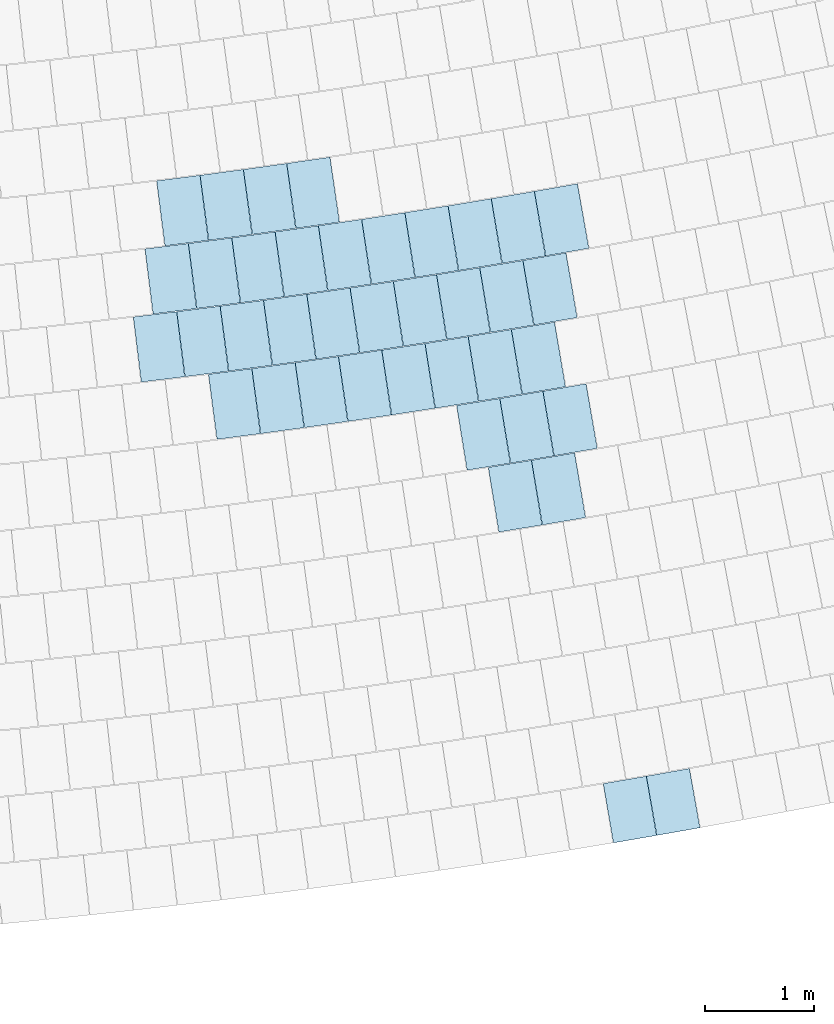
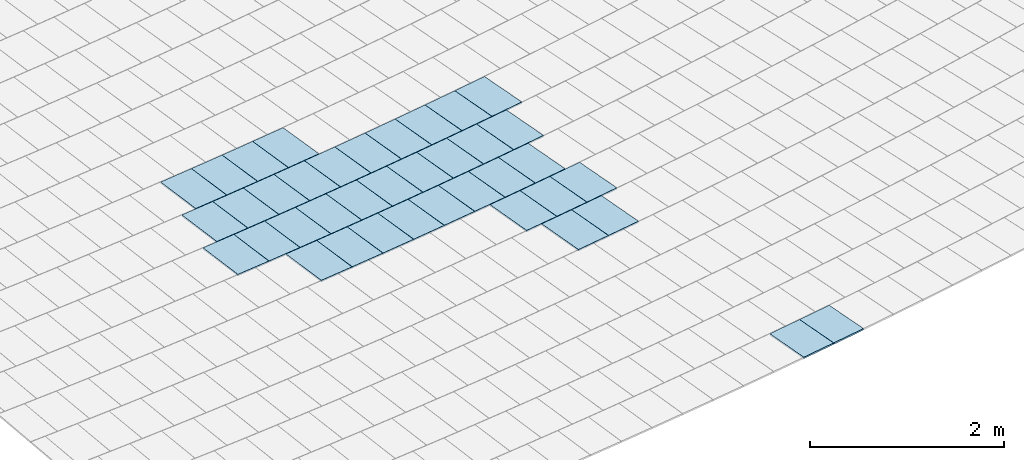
# One storey, part 27 of 438: 39 slabs.
"""IFC2X3 building model written with IfcOpenShell, lengths in millimetres."""

from ifc_helpers import new_model, entity, si_unit, converted_unit, derived_unit, direction, frame, origin, place, context, subcontext, project, spatial, polyline, outline, extrude, material, layer, layer_set, layer_usage, type_object, element, save


model = new_model("IFC2X3")

# Units and contexts
model_context = context("Model", 3, precision=0.01, world=origin(), true_north=direction((6.123031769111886e-17, 1.0)))
body_context = subcontext(model_context, "Body", "Model", "MODEL_VIEW")
ifc_project = project(units=[si_unit("LENGTHUNIT", "METRE", prefix="MILLI"), si_unit("AREAUNIT", "SQUARE_METRE"), si_unit("VOLUMEUNIT", "CUBIC_METRE"), converted_unit("PLANEANGLEUNIT", "DEGREE", entity("IfcRatioMeasure", 0.017453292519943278), si_unit("PLANEANGLEUNIT", "RADIAN"), dimensions=[0, 0, 0, 0, 0, 0, 0]), si_unit("MASSUNIT", "GRAM", prefix="KILO"), derived_unit("MASSDENSITYUNIT", [(si_unit("MASSUNIT", "GRAM", prefix="KILO"), 1), (si_unit("LENGTHUNIT", "METRE"), -3)]), derived_unit("MOMENTOFINERTIAUNIT", [(si_unit("LENGTHUNIT", "METRE"), 4)]), si_unit("TIMEUNIT", "SECOND"), si_unit("FREQUENCYUNIT", "HERTZ"), si_unit("THERMODYNAMICTEMPERATUREUNIT", "DEGREE_CELSIUS"), derived_unit("THERMALTRANSMITTANCEUNIT", [(si_unit("MASSUNIT", "GRAM", prefix="KILO"), 1), (si_unit("THERMODYNAMICTEMPERATUREUNIT", "KELVIN"), -1), (si_unit("TIMEUNIT", "SECOND"), -3)]), derived_unit("THERMALCONDUCTANCEUNIT", [(si_unit("MASSUNIT", "GRAM", prefix="KILO"), 1), (si_unit("LENGTHUNIT", "METRE"), 1), (si_unit("THERMODYNAMICTEMPERATUREUNIT", "KELVIN"), -1), (si_unit("TIMEUNIT", "SECOND"), -3)]), derived_unit("VOLUMETRICFLOWRATEUNIT", [(si_unit("LENGTHUNIT", "METRE"), 3), (si_unit("TIMEUNIT", "SECOND"), -1)]), derived_unit("MASSFLOWRATEUNIT", [(si_unit("MASSUNIT", "GRAM", prefix="KILO"), 1), (si_unit("TIMEUNIT", "SECOND"), -1)]), derived_unit("ROTATIONALFREQUENCYUNIT", [(si_unit("TIMEUNIT", "SECOND"), -1)]), si_unit("ELECTRICCURRENTUNIT", "AMPERE"), si_unit("ELECTRICVOLTAGEUNIT", "VOLT"), si_unit("POWERUNIT", "WATT"), converted_unit("FORCEUNIT", "KIP", entity("IfcRatioMeasure", 2.088543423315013e-05), si_unit("FORCEUNIT", "NEWTON"), dimensions=[1, 1, -2, 0, 0, 0, 0]), si_unit("ILLUMINANCEUNIT", "LUX"), si_unit("LUMINOUSFLUXUNIT", "LUMEN"), si_unit("LUMINOUSINTENSITYUNIT", "CANDELA"), derived_unit("USERDEFINED", [(si_unit("MASSUNIT", "GRAM", prefix="KILO"), -1), (si_unit("LENGTHUNIT", "METRE"), -2), (si_unit("TIMEUNIT", "SECOND"), 3), (si_unit("LUMINOUSFLUXUNIT", "LUMEN"), 1)]), derived_unit("USERDEFINED", [(si_unit("MASSUNIT", "GRAM", prefix="KILO"), 1), (si_unit("LENGTHUNIT", "METRE"), 3), (si_unit("TIMEUNIT", "SECOND"), -3), (si_unit("ELECTRICCURRENTUNIT", "AMPERE"), -2)]), derived_unit("USERDEFINED", [(si_unit("LENGTHUNIT", "METRE"), 2), (si_unit("TIMEUNIT", "SECOND"), -2)]), derived_unit("SOUNDPOWERUNIT", [(si_unit("MASSUNIT", "GRAM", prefix="KILO"), 1), (si_unit("LENGTHUNIT", "METRE"), 2), (si_unit("TIMEUNIT", "SECOND"), -3)]), derived_unit("SOUNDPRESSUREUNIT", [(si_unit("MASSUNIT", "GRAM", prefix="KILO"), 1), (si_unit("LENGTHUNIT", "METRE"), -1), (si_unit("TIMEUNIT", "SECOND"), -2)]), derived_unit("LINEARVELOCITYUNIT", [(si_unit("LENGTHUNIT", "METRE"), 1), (si_unit("TIMEUNIT", "SECOND"), -1)]), si_unit("PRESSUREUNIT", "PASCAL"), derived_unit("USERDEFINED", [(si_unit("LENGTHUNIT", "METRE"), -2), (si_unit("MASSUNIT", "GRAM", prefix="KILO"), 1), (si_unit("TIMEUNIT", "SECOND"), -2)]), derived_unit("LINEARFORCEUNIT", [(si_unit("MASSUNIT", "GRAM", prefix="KILO"), 1), (si_unit("LENGTHUNIT", "METRE"), 1), (si_unit("TIMEUNIT", "SECOND"), -2), (si_unit("LENGTHUNIT", "METRE"), -1)]), derived_unit("PLANARFORCEUNIT", [(si_unit("MASSUNIT", "GRAM", prefix="KILO"), 1), (si_unit("LENGTHUNIT", "METRE"), 1), (si_unit("TIMEUNIT", "SECOND"), -2), (si_unit("LENGTHUNIT", "METRE"), -2)]), derived_unit("SPECIFICHEATCAPACITYUNIT", [(si_unit("LENGTHUNIT", "METRE"), 2), (si_unit("TIMEUNIT", "SECOND"), -2), (si_unit("THERMODYNAMICTEMPERATUREUNIT", "KELVIN"), -1)]), derived_unit("VAPORPERMEABILITYUNIT", [(si_unit("TIMEUNIT", "SECOND"), 1), (si_unit("LENGTHUNIT", "METRE"), -1)]), derived_unit("DYNAMICVISCOSITYUNIT", [(si_unit("MASSUNIT", "GRAM", prefix="KILO"), 1), (si_unit("LENGTHUNIT", "METRE"), -1), (si_unit("TIMEUNIT", "SECOND"), -1)]), derived_unit("THERMALEXPANSIONCOEFFICIENTUNIT", [(si_unit("THERMODYNAMICTEMPERATUREUNIT", "KELVIN"), -1)])], contexts=[model_context])

# Site, building, storey
site_placement = place(None, frame((0.0, 0.0, 0.0), z_axis=(0.0, 0.0, 1.0), x_axis=(0.8191520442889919, 0.5735764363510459, 0.0)))
site = spatial("IfcSite", under=ifc_project, at=site_placement, Name="Default", CompositionType="ELEMENT")
building_placement = place(site_placement, origin())
building = spatial("IfcBuilding", under=site, at=building_placement, CompositionType="ELEMENT")
storey_placement = place(building_placement, origin())
storey = spatial("IfcBuildingStorey", under=building, at=storey_placement, Name="PLAN", CompositionType="ELEMENT", Elevation=0.0)

# Slabs
ifc_material = material(Name="Paint-01")
ifc_layer = layer(ifc_material, 20.00000000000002)
ifc_layer_set = layer_set([ifc_layer], Name="Floor:Slab-179:1000")
ifc_layer_usage = layer_usage(ifc_layer_set, "AXIS3", "POSITIVE", 0.0)
slab_type = type_object("IfcSlabType", Name="Floor:Slab-179:1000", PredefinedType="FLOOR", material=ifc_layer_set)
slab_1_placement = place(storey_placement, origin())
element("IfcSlab", 1, at=slab_1_placement, inside=storey, type_object=slab_type, material=ifc_layer_usage, Name="Floor:Slab-179:1000", ObjectType="Floor:Slab-179:1000", PredefinedType="FLOOR", context=body_context, shape_type="SweptSolid", body=[
    extrude(outline(polyline([(-274.9999989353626, -200.0000029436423), (275.00000106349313, -200.00000294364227), (274.9999989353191, 200.0000029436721), (-275.00000106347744, 200.00000294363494), (-274.9999989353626, -200.0000029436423)])), frame((-73088.72554432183, -138428.2640546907, 20.0), z_axis=(0.0, 0.0, -1.0), x_axis=(-0.4215710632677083, -0.9067953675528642, 0.0)), (0.0, 0.0, 1.0), 20.00000000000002),
])
slab_2_placement = place(storey_placement, origin())
element("IfcSlab", 2, at=slab_2_placement, inside=storey, type_object=slab_type, material=ifc_layer_usage, Name="Floor:Slab-179:1000", ObjectType="Floor:Slab-179:1000", PredefinedType="FLOOR", context=body_context, shape_type="SweptSolid", body=[
    extrude(outline(polyline([(-274.99999893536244, -200.00000294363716), (275.00000106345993, -200.00000294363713), (274.99999893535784, 200.00000294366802), (-275.00000106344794, 200.0000029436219), (-274.99999893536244, -200.00000294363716)])), frame((-73452.29217038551, -138258.09803950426, 20.0), z_axis=(0.0, 0.0, -1.0), x_axis=(-0.4262486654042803, -0.904606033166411, 0.0)), (0.0, 0.0, 1.0), 20.00000000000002),
])
slab_3_placement = place(storey_placement, origin())
element("IfcSlab", 3, at=slab_3_placement, inside=storey, type_object=slab_type, material=ifc_layer_usage, Name="Floor:Slab-179:1000", ObjectType="Floor:Slab-179:1000", PredefinedType="FLOOR", context=body_context, shape_type="SweptSolid", body=[
    extrude(outline(polyline([(-299.99999893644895, -200.00000294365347), (300.00000106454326, -200.0000029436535), (299.99999893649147, 200.00000294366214), (-300.0000010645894, 200.00000294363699), (-299.99999893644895, -200.00000294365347)])), frame((-72305.47212495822, -135481.95921376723, 20.0), z_axis=(0.0, 0.0, -1.0), x_axis=(-0.42801415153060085, -0.9037720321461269, 0.0)), (0.0, 0.0, 1.0), 20.00000000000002),
])
slab_4_placement = place(storey_placement, origin())
element("IfcSlab", 4, at=slab_4_placement, inside=storey, type_object=slab_type, material=ifc_layer_usage, Name="Floor:Slab-179:1000", ObjectType="Floor:Slab-179:1000", PredefinedType="FLOOR", context=body_context, shape_type="SweptSolid", body=[
    extrude(outline(polyline([(-299.99999893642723, -200.00000294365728), (300.00000106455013, -200.00000294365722), (299.9999989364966, 200.00000294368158), (-300.0000010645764, 200.00000294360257), (-299.99999893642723, -200.00000294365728)])), frame((-72667.97360234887, -135309.08929809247, 20.0), z_axis=(0.0, 0.0, -1.0), x_axis=(-0.4328652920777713, -0.9014586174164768, 0.0)), (0.0, 0.0, 1.0), 20.000000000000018),
])
slab_5_placement = place(storey_placement, origin())
element("IfcSlab", 5, at=slab_5_placement, inside=storey, type_object=slab_type, material=ifc_layer_usage, Name="Floor:Slab-179:1000", ObjectType="Floor:Slab-179:1000", PredefinedType="FLOOR", context=body_context, shape_type="SweptSolid", body=[
    extrude(outline(polyline([(-299.9999989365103, -200.0000029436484), (300.0000010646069, -200.0000029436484), (299.9999989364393, 200.00000294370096), (-300.00000106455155, 200.00000294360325), (-299.9999989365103, -200.0000029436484)])), frame((-71856.05534541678, -135025.04922388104, 20.0), z_axis=(0.0, 0.0, -1.0), x_axis=(-0.425444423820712, -0.9049845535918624, 0.0)), (0.0, 0.0, 1.0), 20.00000000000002),
])
slab_6_placement = place(storey_placement, origin())
element("IfcSlab", 6, at=slab_6_placement, inside=storey, type_object=slab_type, material=ifc_layer_usage, Name="Floor:Slab-179:1000", ObjectType="Floor:Slab-179:1000", PredefinedType="FLOOR", context=body_context, shape_type="SweptSolid", body=[
    extrude(outline(polyline([(-299.9999989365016, -200.00000294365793), (300.00000106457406, -200.0000029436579), (299.9999989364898, 200.00000294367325), (-300.00000106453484, 200.00000294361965), (-299.9999989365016, -200.00000294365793)])), frame((-72581.11752000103, -134679.3791466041, 20.0), z_axis=(0.0, 0.0, -1.0), x_axis=(-0.43522669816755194, -0.9003208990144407, 0.0)), (0.0, 0.0, 1.0), 20.00000000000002),
])
slab_7_placement = place(storey_placement, origin())
element("IfcSlab", 7, at=slab_7_placement, inside=storey, type_object=slab_type, material=ifc_layer_usage, Name="Floor:Slab-179:1000", ObjectType="Floor:Slab-179:1000", PredefinedType="FLOOR", context=body_context, shape_type="SweptSolid", body=[
    extrude(outline(polyline([(-299.9999989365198, -200.00000294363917), (300.0000010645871, -200.00000294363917), (299.9999989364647, 200.00000294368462), (-300.00000106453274, 200.00000294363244), (-299.9999989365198, -200.00000294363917)])), frame((-72219.0546934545, -134853.1963881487, 20.0), z_axis=(0.0, 0.0, -1.0), x_axis=(-0.4303418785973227, -0.9026659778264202, 0.0)), (0.0, 0.0, 1.0), 20.000000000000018),
])
slab_8_placement = place(storey_placement, origin())
element("IfcSlab", 8, at=slab_8_placement, inside=storey, type_object=slab_type, material=ifc_layer_usage, Name="Floor:Slab-179:1000", ObjectType="Floor:Slab-179:1000", PredefinedType="FLOOR", context=body_context, shape_type="SweptSolid", body=[
    extrude(outline(polyline([(-299.99999893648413, -200.00000294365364), (300.0000010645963, -200.00000294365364), (299.9999989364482, 200.00000294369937), (-300.00000106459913, 200.00000294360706), (-299.99999893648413, -200.00000294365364)])), frame((-71769.86955929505, -134396.7772238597, 20.0), z_axis=(0.0, 0.0, -1.0), x_axis=(-0.4277733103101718, -0.903886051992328, 0.0)), (0.0, 0.0, 1.0), 20.00000000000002),
])
slab_9_placement = place(storey_placement, origin())
element("IfcSlab", 9, at=slab_9_placement, inside=storey, type_object=slab_type, material=ifc_layer_usage, Name="Floor:Slab-179:1000", ObjectType="Floor:Slab-179:1000", PredefinedType="FLOOR", context=body_context, shape_type="SweptSolid", body=[
    extrude(outline(polyline([(-299.9999989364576, -200.00000294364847), (300.0000010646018, -200.0000029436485), (299.999998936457, 200.0000029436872), (-300.0000010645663, 200.00000294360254), (-299.9999989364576, -200.00000294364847)])), frame((-72132.43342549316, -134223.97636443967, 20.0), z_axis=(0.0, 0.0, -1.0), x_axis=(-0.4327051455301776, -0.9015354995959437, 0.0)), (0.0, 0.0, 1.0), 20.00000000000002),
])
slab_10_placement = place(storey_placement, origin())
element("IfcSlab", 10, at=slab_10_placement, inside=storey, type_object=slab_type, material=ifc_layer_usage, Name="Floor:Slab-179:1000", ObjectType="Floor:Slab-179:1000", PredefinedType="FLOOR", context=body_context, shape_type="SweptSolid", body=[
    extrude(outline(polyline([(-299.99999893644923, -200.0000029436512), (300.0000010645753, -200.00000294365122), (299.99999893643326, 200.00000294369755), (-300.0000010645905, 200.00000294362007), (-299.99999893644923, -200.0000029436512)])), frame((-72494.0478142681, -134049.19728125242, 20.0), z_axis=(0.0, 0.0, -1.0), x_axis=(-0.43762406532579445, -0.899158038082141, 0.0)), (0.0, 0.0, 1.0), 20.000000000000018),
])
slab_11_placement = place(storey_placement, origin())
element("IfcSlab", 11, at=slab_11_placement, inside=storey, type_object=slab_type, material=ifc_layer_usage, Name="Floor:Slab-179:1000", ObjectType="Floor:Slab-179:1000", PredefinedType="FLOOR", context=body_context, shape_type="SweptSolid", body=[
    extrude(outline(polyline([(-300.00000106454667, -200.00000294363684), (299.9999989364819, -200.00000294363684), (300.0000010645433, 200.00000294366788), (-299.99999893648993, 200.0000029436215), (-300.00000106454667, -200.00000294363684)])), frame((-74287.50083418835, -133145.81315544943, 20.0), z_axis=(0.0, 0.0, -1.0), x_axis=(-0.4620198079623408, -0.8868696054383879, 0.0)), (0.0, 0.0, 1.0), 20.000000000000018),
])
slab_12_placement = place(storey_placement, origin())
element("IfcSlab", 12, at=slab_12_placement, inside=storey, type_object=slab_type, material=ifc_layer_usage, Name="Floor:Slab-179:1000", ObjectType="Floor:Slab-179:1000", PredefinedType="FLOOR", context=body_context, shape_type="SweptSolid", body=[
    extrude(outline(polyline([(-300.0000010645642, -200.00000294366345), (299.9999989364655, -200.00000294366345), (300.00000106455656, 200.00000294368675), (-299.9999989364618, 200.00000294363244), (-300.0000010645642, -200.00000294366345)])), frame((-73573.08632467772, -133513.04315160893, 20.0), z_axis=(0.0, 0.0, -1.0), x_axis=(-0.4523018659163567, -0.8918649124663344, 0.0)), (0.0, 0.0, 1.0), 20.000000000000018),
])
slab_13_placement = place(storey_placement, origin())
element("IfcSlab", 13, at=slab_13_placement, inside=storey, type_object=slab_type, material=ifc_layer_usage, Name="Floor:Slab-179:1000", ObjectType="Floor:Slab-179:1000", PredefinedType="FLOOR", context=body_context, shape_type="SweptSolid", body=[
    extrude(outline(polyline([(-300.0000010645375, -200.00000294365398), (299.99999893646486, -200.00000294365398), (300.00000106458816, 200.00000294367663), (-299.9999989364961, 200.00000294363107), (-300.0000010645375, -200.00000294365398)])), frame((-73930.79515698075, -133330.4039296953, 20.0), z_axis=(0.0, 0.0, -1.0), x_axis=(-0.457167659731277, -0.889380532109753, 0.0)), (0.0, 0.0, 1.0), 20.00000000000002),
])
slab_14_placement = place(storey_placement, origin())
element("IfcSlab", 14, at=slab_14_placement, inside=storey, type_object=slab_type, material=ifc_layer_usage, Name="Floor:Slab-179:1000", ObjectType="Floor:Slab-179:1000", PredefinedType="FLOOR", context=body_context, shape_type="SweptSolid", body=[
    extrude(outline(polyline([(-300.0000010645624, -200.00000294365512), (299.99999893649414, -200.0000029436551), (300.00000106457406, 200.00000294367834), (-299.9999989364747, 200.00000294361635), (-300.0000010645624, -200.00000294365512)])), frame((-73214.38501420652, -133693.7253697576, 20.0), z_axis=(0.0, 0.0, -1.0), x_axis=(-0.4474225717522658, -0.8943226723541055, 0.0)), (0.0, 0.0, 1.0), 20.00000000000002),
])
slab_15_placement = place(storey_placement, origin())
element("IfcSlab", 15, at=slab_15_placement, inside=storey, type_object=slab_type, material=ifc_layer_usage, Name="Floor:Slab-179:1000", ObjectType="Floor:Slab-179:1000", PredefinedType="FLOOR", context=body_context, shape_type="SweptSolid", body=[
    extrude(outline(polyline([(-299.9999989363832, -200.00000294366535), (300.0000010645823, -200.00000294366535), (299.9999989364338, 200.00000294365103), (-300.0000010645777, 200.00000294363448), (-299.9999989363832, -200.00000294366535)])), frame((-71320.4130719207, -133939.8178585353, 20.0), z_axis=(0.0, 0.0, -1.0), x_axis=(-0.42515839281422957, -0.9051189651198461, 0.0)), (0.0, 0.0, 1.0), 20.00000000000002),
])
slab_16_placement = place(storey_placement, origin())
element("IfcSlab", 16, at=slab_16_placement, inside=storey, type_object=slab_type, material=ifc_layer_usage, Name="Floor:Slab-179:1000", ObjectType="Floor:Slab-179:1000", PredefinedType="FLOOR", context=body_context, shape_type="SweptSolid", body=[
    extrude(outline(polyline([(-299.9999989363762, -200.00000294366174), (300.00000106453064, -200.00000294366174), (299.99999893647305, 200.0000029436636), (-300.00000106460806, 200.00000294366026), (-299.9999989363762, -200.00000294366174)])), frame((-71683.48340210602, -133768.05179852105, 20.0), z_axis=(0.0, 0.0, -1.0), x_axis=(-0.43013809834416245, -0.9027631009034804, 0.0)), (0.0, 0.0, 1.0), 20.00000000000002),
])
slab_17_placement = place(storey_placement, origin())
element("IfcSlab", 17, at=slab_17_placement, inside=storey, type_object=slab_type, material=ifc_layer_usage, Name="Floor:Slab-179:1000", ObjectType="Floor:Slab-179:1000", PredefinedType="FLOOR", context=body_context, shape_type="SweptSolid", body=[
    extrude(outline(polyline([(-299.9999989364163, -200.00000294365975), (300.0000010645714, -200.00000294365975), (299.99999893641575, 200.0000029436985), (-300.00000106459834, 200.0000029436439), (-299.9999989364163, -200.00000294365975)])), frame((-72045.6019911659, -133594.28824799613, 20.0), z_axis=(0.0, 0.0, -1.0), x_axis=(-0.43510475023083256, -0.9003798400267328, 0.0)), (0.0, 0.0, 1.0), 20.00000000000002),
])
slab_18_placement = place(storey_placement, origin())
element("IfcSlab", 18, at=slab_18_placement, inside=storey, type_object=slab_type, material=ifc_layer_usage, Name="Floor:Slab-179:1000", ObjectType="Floor:Slab-179:1000", PredefinedType="FLOOR", context=body_context, shape_type="SweptSolid", body=[
    extrude(outline(polyline([(-299.99999893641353, -200.0000029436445), (300.00000106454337, -200.0000029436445), (299.9999989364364, 200.00000294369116), (-300.00000106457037, 200.0000029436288), (-299.99999893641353, -200.0000029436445)])), frame((-72406.75784968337, -133418.53248026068, 20.0), z_axis=(0.0, 0.0, -1.0), x_axis=(-0.44005819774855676, -0.8979692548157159, 0.0)), (0.0, 0.0, 1.0), 20.00000000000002),
])
slab_19_placement = place(storey_placement, origin())
element("IfcSlab", 19, at=slab_19_placement, inside=storey, type_object=slab_type, material=ifc_layer_usage, Name="Floor:Slab-179:1000", ObjectType="Floor:Slab-179:1000", PredefinedType="FLOOR", context=body_context, shape_type="SweptSolid", body=[
    extrude(outline(polyline([(-300.0000010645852, -200.00000294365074), (299.9999989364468, -200.0000029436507), (300.00000106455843, 200.0000029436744), (-299.99999893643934, 200.00000294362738), (-300.0000010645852, -200.00000294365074)])), frame((-73841.5352195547, -132695.69481587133, 20.0), z_axis=(0.0, 0.0, -1.0), x_axis=(-0.4597369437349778, -0.8880551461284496, 0.0)), (0.0, 0.0, 1.0), 20.000000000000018),
])
slab_20_placement = place(storey_placement, origin())
element("IfcSlab", 20, at=slab_20_placement, inside=storey, type_object=slab_type, material=ifc_layer_usage, Name="Floor:Slab-179:1000", ObjectType="Floor:Slab-179:1000", PredefinedType="FLOOR", context=body_context, shape_type="SweptSolid", body=[
    extrude(outline(polyline([(-300.0000010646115, -200.00000294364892), (299.99999893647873, -200.0000029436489), (300.00000106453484, 200.00000294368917), (-299.99999893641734, 200.00000294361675), (-300.0000010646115, -200.00000294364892)])), frame((-74197.71361830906, -132510.05917194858, 20.0), z_axis=(0.0, 0.0, -1.0), x_axis=(-0.46462212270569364, -0.8855090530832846, 0.0)), (0.0, 0.0, 1.0), 20.000000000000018),
])
slab_21_placement = place(storey_placement, origin())
element("IfcSlab", 21, at=slab_21_placement, inside=storey, type_object=slab_type, material=ifc_layer_usage, Name="Floor:Slab-179:1000", ObjectType="Floor:Slab-179:1000", PredefinedType="FLOOR", context=body_context, shape_type="SweptSolid", body=[
    extrude(outline(polyline([(-300.0000010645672, -200.00000294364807), (299.9999989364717, -200.00000294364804), (300.00000106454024, 200.00000294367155), (-299.99999893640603, 200.00000294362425), (-300.0000010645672, -200.00000294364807)])), frame((-73484.33958806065, -132879.36551270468, 20.0), z_axis=(0.0, 0.0, -1.0), x_axis=(-0.4548378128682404, -0.8905742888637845, 0.0)), (0.0, 0.0, 1.0), 20.00000000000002),
])
slab_22_placement = place(storey_placement, origin())
element("IfcSlab", 22, at=slab_22_placement, inside=storey, type_object=slab_type, material=ifc_layer_usage, Name="Floor:Slab-179:1000", ObjectType="Floor:Slab-179:1000", PredefinedType="FLOOR", context=body_context, shape_type="SweptSolid", body=[
    extrude(outline(polyline([(-300.00000106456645, -200.00000294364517), (299.9999989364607, -200.0000029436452), (300.0000010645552, 200.00000294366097), (-299.999998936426, 200.0000029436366), (-300.00000106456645, -200.00000294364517)])), frame((-74552.86397517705, -132322.46421452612, 20.0), z_axis=(0.0, 0.0, -1.0), x_axis=(-0.46949320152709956, -0.8829360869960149, 0.0)), (0.0, 0.0, 1.0), 20.00000000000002),
])
slab_23_placement = place(storey_placement, origin())
element("IfcSlab", 23, at=slab_23_placement, inside=storey, type_object=slab_type, material=ifc_layer_usage, Name="Floor:Slab-179:1000", ObjectType="Floor:Slab-179:1000", PredefinedType="FLOOR", context=body_context, shape_type="SweptSolid", body=[
    extrude(outline(polyline([(-300.0000010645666, -200.0000029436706), (299.9999989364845, -200.0000029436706), (300.0000010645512, 200.00000294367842), (-299.99999893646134, 200.00000294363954), (-300.0000010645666, -200.0000029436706)])), frame((-73126.13756384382, -133061.0656884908, 20.0), z_axis=(0.0, 0.0, -1.0), x_axis=(-0.44992487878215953, -0.8930664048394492, 0.0)), (0.0, 0.0, 1.0), 20.00000000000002),
])
slab_24_placement = place(storey_placement, origin())
element("IfcSlab", 24, at=slab_24_placement, inside=storey, type_object=slab_type, material=ifc_layer_usage, Name="Floor:Slab-179:1000", ObjectType="Floor:Slab-179:1000", PredefinedType="FLOOR", context=body_context, shape_type="SweptSolid", body=[
    extrude(outline(polyline([(-299.99999893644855, -200.00000294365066), (300.00000106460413, -200.00000294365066), (299.9999989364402, 200.00000294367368), (-300.0000010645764, 200.00000294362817), (-299.99999893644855, -200.00000294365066)])), frame((-70870.67998521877, -133482.3038544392, 20.0), z_axis=(0.0, 0.0, -1.0), x_axis=(-0.42249589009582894, -0.9063648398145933, 0.0)), (0.0, 0.0, 1.0), 20.000000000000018),
])
slab_25_placement = place(storey_placement, origin())
element("IfcSlab", 25, at=slab_25_placement, inside=storey, type_object=slab_type, material=ifc_layer_usage, Name="Floor:Slab-179:1000", ObjectType="Floor:Slab-179:1000", PredefinedType="FLOOR", context=body_context, shape_type="SweptSolid", body=[
    extrude(outline(polyline([(-299.999998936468, -200.00000294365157), (300.00000106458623, -200.0000029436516), (299.9999989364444, 200.00000294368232), (-300.00000106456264, 200.00000294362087), (-299.999998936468, -200.00000294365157)])), frame((-71958.55380743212, -132964.12079951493, 20.0), z_axis=(0.0, 0.0, -1.0), x_axis=(-0.4375415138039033, -0.8991982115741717, 0.0)), (0.0, 0.0, 1.0), 20.000000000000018),
])
slab_26_placement = place(storey_placement, origin())
element("IfcSlab", 26, at=slab_26_placement, inside=storey, type_object=slab_type, material=ifc_layer_usage, Name="Floor:Slab-179:1000", ObjectType="Floor:Slab-179:1000", PredefinedType="FLOOR", context=body_context, shape_type="SweptSolid", body=[
    extrude(outline(polyline([(-299.999998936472, -200.00000294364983), (300.000001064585, -200.00000294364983), (299.99999893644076, 200.00000294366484), (-300.00000106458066, 200.00000294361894), (-299.999998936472, -200.00000294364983)])), frame((-71596.89059922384, -133138.8620425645, 20.0), z_axis=(0.0, 0.0, -1.0), x_axis=(-0.4325396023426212, -0.9016149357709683, 0.0)), (0.0, 0.0, 1.0), 20.000000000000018),
])
slab_27_placement = place(storey_placement, origin())
element("IfcSlab", 27, at=slab_27_placement, inside=storey, type_object=slab_type, material=ifc_layer_usage, Name="Floor:Slab-179:1000", ObjectType="Floor:Slab-179:1000", PredefinedType="FLOOR", context=body_context, shape_type="SweptSolid", body=[
    extrude(outline(polyline([(-299.9999989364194, -200.00000294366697), (300.00000106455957, -200.00000294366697), (299.9999989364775, 200.00000294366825), (-300.00000106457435, 200.00000294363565), (-299.9999989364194, -200.00000294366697)])), frame((-71234.26226162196, -133311.5915043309, 20.0), z_axis=(0.0, 0.0, -1.0), x_axis=(-0.42752434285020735, -0.9040038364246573, 0.0)), (0.0, 0.0, 1.0), 20.00000000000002),
])
slab_28_placement = place(storey_placement, origin())
element("IfcSlab", 28, at=slab_28_placement, inside=storey, type_object=slab_type, material=ifc_layer_usage, Name="Floor:Slab-179:1000", ObjectType="Floor:Slab-179:1000", PredefinedType="FLOOR", context=body_context, shape_type="SweptSolid", body=[
    extrude(outline(polyline([(-300.0000010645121, -200.00000294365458), (299.99999893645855, -200.00000294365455), (300.00000106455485, 200.00000294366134), (-299.9999989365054, 200.00000294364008), (-300.0000010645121, -200.00000294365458)])), frame((-74107.64246229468, -131873.73223658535, 20.0), z_axis=(0.0, 0.0, -1.0), x_axis=(-0.4672640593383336, -0.8841178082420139, 0.0)), (0.0, 0.0, 1.0), 20.000000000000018),
])
slab_29_placement = place(storey_placement, origin())
element("IfcSlab", 29, at=slab_29_placement, inside=storey, type_object=slab_type, material=ifc_layer_usage, Name="Floor:Slab-179:1000", ObjectType="Floor:Slab-179:1000", PredefinedType="FLOOR", context=body_context, shape_type="SweptSolid", body=[
    extrude(outline(polyline([(-300.0000010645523, -200.0000029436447), (299.99999893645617, -200.0000029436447), (300.00000106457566, 200.00000294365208), (-299.9999989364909, 200.00000294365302), (-300.0000010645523, -200.0000029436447)])), frame((-73752.00334094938, -132060.4287645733, 20.0), z_axis=(0.0, 0.0, -1.0), x_axis=(-0.4623454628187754, -0.8866998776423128, 0.0)), (0.0, 0.0, 1.0), 20.000000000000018),
])
slab_30_placement = place(storey_placement, origin())
element("IfcSlab", 30, at=slab_30_placement, inside=storey, type_object=slab_type, material=ifc_layer_usage, Name="Floor:Slab-179:1000", ObjectType="Floor:Slab-179:1000", PredefinedType="FLOOR", context=body_context, shape_type="SweptSolid", body=[
    extrude(outline(polyline([(-300.00000106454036, -200.0000029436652), (299.99999893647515, -200.0000029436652), (300.00000106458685, 200.0000029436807), (-299.99999893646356, 200.000002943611), (-300.00000106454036, -200.0000029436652)])), frame((-72678.9402225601, -132608.62460131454, 20.0), z_axis=(0.0, 0.0, -1.0), x_axis=(-0.44750467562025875, -0.8942815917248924, 0.0)), (0.0, 0.0, 1.0), 20.000000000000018),
])
slab_31_placement = place(storey_placement, origin())
element("IfcSlab", 31, at=slab_31_placement, inside=storey, type_object=slab_type, material=ifc_layer_usage, Name="Floor:Slab-179:1000", ObjectType="Floor:Slab-179:1000", PredefinedType="FLOOR", context=body_context, shape_type="SweptSolid", body=[
    extrude(outline(polyline([(-300.00000106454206, -200.0000029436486), (299.999998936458, -200.0000029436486), (300.0000010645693, 200.000002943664), (-299.999998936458, 200.0000029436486), (-300.00000106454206, -200.0000029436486)])), frame((-73037.6411985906, -132427.88061666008, 20.0), z_axis=(0.0, 0.0, -1.0), x_axis=(-0.45246561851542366, -0.891781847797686, 0.0)), (0.0, 0.0, 1.0), 20.00000000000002),
])
slab_32_placement = place(storey_placement, origin())
element("IfcSlab", 32, at=slab_32_placement, inside=storey, type_object=slab_type, material=ifc_layer_usage, Name="Floor:Slab-179:1000", ObjectType="Floor:Slab-179:1000", PredefinedType="FLOOR", context=body_context, shape_type="SweptSolid", body=[
    extrude(outline(polyline([(-300.0000010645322, -200.00000294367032), (299.9999989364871, -200.00000294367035), (300.00000106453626, 200.00000294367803), (-299.9999989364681, 200.00000294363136), (-300.0000010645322, -200.00000294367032)])), frame((-73395.33258413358, -132245.14679137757, 20.0), z_axis=(0.0, 0.0, -1.0), x_axis=(-0.4574125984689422, -0.8892545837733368, 0.0)), (0.0, 0.0, 1.0), 20.000000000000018),
])
slab_33_placement = place(storey_placement, origin())
element("IfcSlab", 33, at=slab_33_placement, inside=storey, type_object=slab_type, material=ifc_layer_usage, Name="Floor:Slab-179:1000", ObjectType="Floor:Slab-179:1000", PredefinedType="FLOOR", context=body_context, shape_type="SweptSolid", body=[
    extrude(outline(polyline([(-300.00000106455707, -200.00000294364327), (299.9999989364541, -200.00000294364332), (300.00000106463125, 200.0000029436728), (-299.99999893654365, 200.0000029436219), (-300.00000106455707, -200.00000294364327)])), frame((-73662.19092027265, -131424.59242138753, 20.0), z_axis=(0.0, 0.0, -1.0), x_axis=(-0.4649940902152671, -0.885313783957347, 0.0)), (0.0, 0.0, 1.0), 20.00000000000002),
])
slab_34_placement = place(storey_placement, origin())
element("IfcSlab", 34, at=slab_34_placement, inside=storey, type_object=slab_type, material=ifc_layer_usage, Name="Floor:Slab-179:1000", ObjectType="Floor:Slab-179:1000", PredefinedType="FLOOR", context=body_context, shape_type="SweptSolid", body=[
    extrude(outline(polyline([(-300.0000010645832, -200.0000029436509), (299.9999989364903, -200.00000294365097), (300.00000106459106, 200.00000294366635), (-299.9999989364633, 200.00000294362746), (-300.0000010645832, -200.0000029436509)])), frame((-72948.88804853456, -131794.15750953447, 20.0), z_axis=(0.0, 0.0, -1.0), x_axis=(-0.455045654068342, -0.8904681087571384, 0.0)), (0.0, 0.0, 1.0), 20.00000000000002),
])
slab_35_placement = place(storey_placement, origin())
element("IfcSlab", 35, at=slab_35_placement, inside=storey, type_object=slab_type, material=ifc_layer_usage, Name="Floor:Slab-179:1000", ObjectType="Floor:Slab-179:1000", PredefinedType="FLOOR", context=body_context, shape_type="SweptSolid", body=[
    extrude(outline(polyline([(-300.00000106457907, -200.00000294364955), (299.9999989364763, -200.00000294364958), (300.00000106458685, 200.00000294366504), (-299.999998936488, 200.00000294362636), (-300.00000106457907, -200.00000294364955)])), frame((-72590.69502785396, -131975.93721465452, 20.0), z_axis=(0.0, 0.0, -1.0), x_axis=(-0.45004993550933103, -0.8930033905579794, 0.0)), (0.0, 0.0, 1.0), 20.00000000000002),
])
slab_36_placement = place(storey_placement, origin())
element("IfcSlab", 36, at=slab_36_placement, inside=storey, type_object=slab_type, material=ifc_layer_usage, Name="Floor:Slab-179:1000", ObjectType="Floor:Slab-179:1000", PredefinedType="FLOOR", context=body_context, shape_type="SweptSolid", body=[
    extrude(outline(polyline([(-300.00000106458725, -200.00000294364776), (299.99999893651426, -200.00000294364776), (300.0000010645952, 200.00000294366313), (-299.99999893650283, 200.0000029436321), (-300.00000106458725, -200.00000294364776)])), frame((-73306.057082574, -131610.37398910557, 20.0), z_axis=(0.0, 0.0, -1.0), x_axis=(-0.46002709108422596, -0.8879048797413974, 0.0)), (0.0, 0.0, 1.0), 20.000000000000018),
])
slab_37_placement = place(storey_placement, origin())
element("IfcSlab", 37, at=slab_37_placement, inside=storey, type_object=slab_type, material=ifc_layer_usage, Name="Floor:Slab-179:1000", ObjectType="Floor:Slab-179:1000", PredefinedType="FLOOR", context=body_context, shape_type="SweptSolid", body=[
    extrude(outline(polyline([(-300.0000010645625, -200.00000294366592), (299.9999989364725, -200.00000294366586), (300.0000010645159, 200.00000294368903), (-299.99999893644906, 200.0000029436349), (-300.0000010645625, -200.00000294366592)])), frame((-72766.9400174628, -133240.7898290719, 20.0), z_axis=(0.0, 0.0, -1.0), x_axis=(-0.44499829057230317, -0.8955314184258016, 0.0)), (0.0, 0.0, 1.0), 20.000000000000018),
])
slab_38_placement = place(storey_placement, origin())
element("IfcSlab", 38, at=slab_38_placement, inside=storey, type_object=slab_type, material=ifc_layer_usage, Name="Floor:Slab-179:1000", ObjectType="Floor:Slab-179:1000", PredefinedType="FLOOR", context=body_context, shape_type="SweptSolid", body=[
    extrude(outline(polyline([(-300.0000010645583, -200.0000029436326), (299.9999989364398, -200.00000294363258), (300.0000010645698, 200.0000029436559), (-299.99999893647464, 200.00000294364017), (-300.0000010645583, -200.0000029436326)])), frame((-72854.701932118, -133872.4451911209, 20.0), z_axis=(0.0, 0.0, -1.0), x_axis=(-0.44252992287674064, -0.8967537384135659, 0.0)), (0.0, 0.0, 1.0), 20.000000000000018),
])
slab_39_placement = place(storey_placement, origin())
element("IfcSlab", 39, at=slab_39_placement, inside=storey, type_object=slab_type, material=ifc_layer_usage, Name="Floor:Slab-179:1000", ObjectType="Floor:Slab-179:1000", PredefinedType="FLOOR", context=body_context, shape_type="SweptSolid", body=[
    extrude(outline(polyline([(-300.00000106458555, -200.0000029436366), (299.9999989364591, -200.0000029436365), (300.00000106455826, 200.00000294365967), (-299.9999989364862, 200.00000294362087), (-300.00000106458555, -200.0000029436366)])), frame((-72319.24072543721, -132787.37316764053, 20.0), z_axis=(0.0, 0.0, -1.0), x_axis=(-0.4425299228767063, -0.8967537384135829, 0.0)), (0.0, 0.0, 1.0), 20.000000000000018),
])

save(model, "model.ifc")
